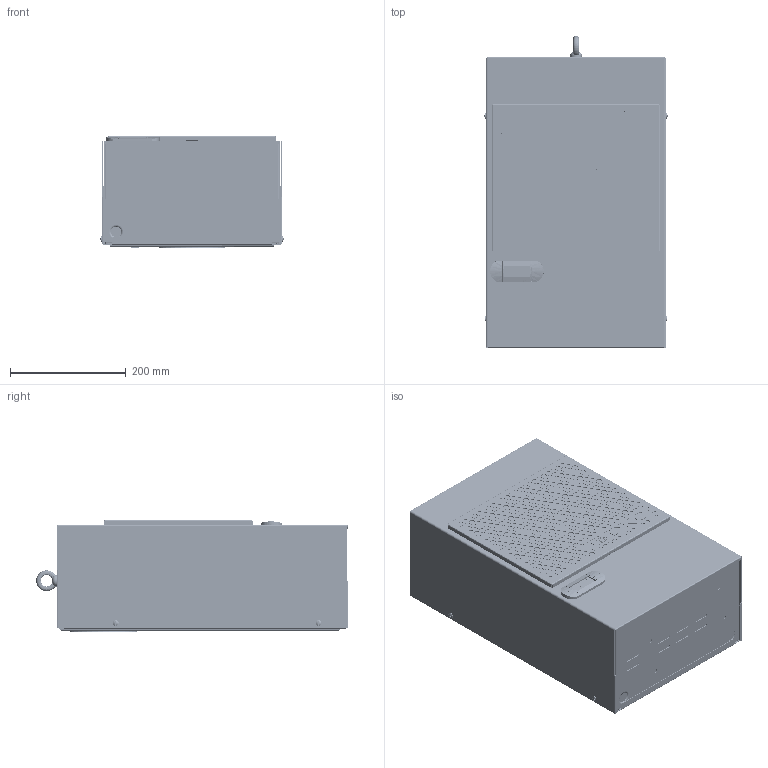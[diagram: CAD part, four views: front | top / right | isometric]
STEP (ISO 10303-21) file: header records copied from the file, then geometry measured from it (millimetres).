
FILE_DESCRIPTION (( 'STEP AP203' ), '1' );
FILE_NAME ('WALL-230V-300W-(310mm)(NA).STEP', '2019-05-06T15:38:02', ( 'Ufficio Tecnico' ), ( 'Hewlett-Packard Company' ), 'SwSTEP 2.0', 'SolidWorks 2017', '' );
FILE_SCHEMA (( 'CONFIG_CONTROL_DESIGN' ));
Products named in the file (2): WALL-230V-300W-(310mm)(NA)
Bounding box: 316.21 x 538 x 193.4 mm (x, y, z)
Surface area: 2117735 mm2 (no closed solid volume)
Topology: 0 solids, 108 shells, 8583 faces, 23660 edges, 15526 vertices
Faces by surface type: cylinder 3926, plane 3669, bspline 514, cone 304, torus 162, sphere 8
Entity records: 307886 total; most frequent: CARTESIAN_POINT 81486, ORIENTED_EDGE 47254, DIRECTION 45923, EDGE_CURVE 23639, AXIS2_PLACEMENT_3D 16474, VERTEX_POINT 15529, VECTOR 12975, LINE 12975
